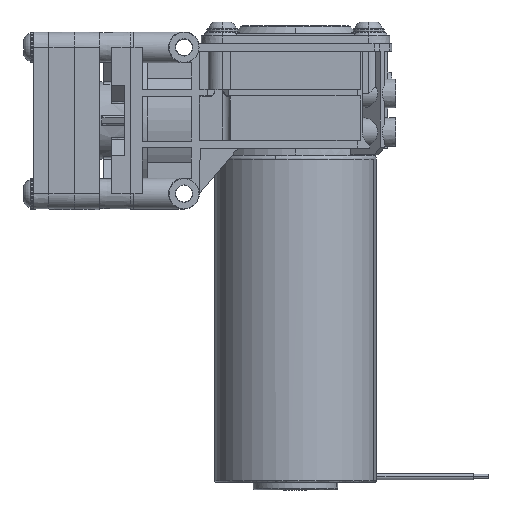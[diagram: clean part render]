
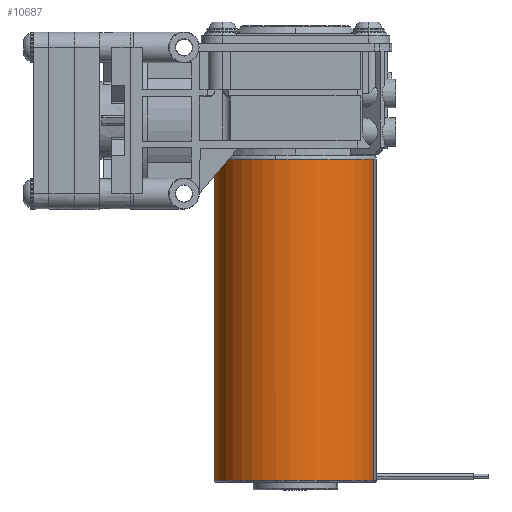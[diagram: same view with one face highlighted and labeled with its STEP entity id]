
A CAD part, left-side view. The second image highlights one B-rep face of the part: STEP entity #10687.
In plain terms, the highlighted cylindrical face has radius 21 mm (diameter 42 mm), a partial arc.
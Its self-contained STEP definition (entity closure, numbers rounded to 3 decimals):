
#1296 = CIRCLE ( 'NONE', #25575, 21. ) ;
#3294 = VECTOR ( 'NONE', #30562, 1000. ) ;
#3414 = VERTEX_POINT ( 'NONE', #49061 ) ;
#4370 = DIRECTION ( 'NONE',  ( 0., 0., 1. ) ) ;
#7441 = EDGE_CURVE ( 'NONE', #3414, #13112, #42495, .T. ) ;
#7555 = VERTEX_POINT ( 'NONE', #29185 ) ;
#8067 = CARTESIAN_POINT ( 'NONE',  ( 0., 0., -100.45 ) ) ;
#8447 = CIRCLE ( 'NONE', #44355, 21. ) ;
#8992 = ORIENTED_EDGE ( 'NONE', *, *, #12736, .T. ) ;
#9029 = DIRECTION ( 'NONE',  ( 0., 0., -1. ) ) ;
#10482 = FACE_OUTER_BOUND ( 'NONE', #46546, .T. ) ;
#10687 = ADVANCED_FACE ( 'NONE', ( #10482 ), #24586, .T. ) ;
#11309 = VERTEX_POINT ( 'NONE', #30871 ) ;
#12158 = CARTESIAN_POINT ( 'NONE',  ( 0., 0., -93.5 ) ) ;
#12736 = EDGE_CURVE ( 'NONE', #13112, #40922, #23140, .T. ) ;
#13112 = VERTEX_POINT ( 'NONE', #46379 ) ;
#13432 = EDGE_CURVE ( 'NONE', #7555, #33764, #8447, .T. ) ;
#15370 = ORIENTED_EDGE ( 'NONE', *, *, #24993, .T. ) ;
#16670 = CARTESIAN_POINT ( 'NONE',  ( 0., 0., -10. ) ) ;
#17448 = EDGE_CURVE ( 'NONE', #40922, #7555, #41627, .T. ) ;
#18714 = DIRECTION ( 'NONE',  ( 0.259, 0.966, 0. ) ) ;
#19213 = CARTESIAN_POINT ( 'NONE',  ( 0., 0., -10. ) ) ;
#19666 = DIRECTION ( 'NONE',  ( 0.259, 0.966, 0. ) ) ;
#19927 = ORIENTED_EDGE ( 'NONE', *, *, #26299, .F. ) ;
#22661 = DIRECTION ( 'NONE',  ( 0., 0., 1. ) ) ;
#23140 = CIRCLE ( 'NONE', #28371, 21. ) ;
#24586 = CYLINDRICAL_SURFACE ( 'NONE', #31576, 21. ) ;
#24696 = DIRECTION ( 'NONE',  ( 0.259, 0.966, 0. ) ) ;
#24880 = DIRECTION ( 'NONE',  ( 0.259, 0.966, 0. ) ) ;
#24993 = EDGE_CURVE ( 'NONE', #33764, #11309, #1296, .T. ) ;
#25575 = AXIS2_PLACEMENT_3D ( 'NONE', #16670, #9029, #24880 ) ;
#26299 = EDGE_CURVE ( 'NONE', #3414, #11309, #36580, .T. ) ;
#28371 = AXIS2_PLACEMENT_3D ( 'NONE', #12158, #39742, #31628 ) ;
#29185 = CARTESIAN_POINT ( 'NONE',  ( -5.435, -20.284, -10. ) ) ;
#30220 = CARTESIAN_POINT ( 'NONE',  ( -5.435, -20.284, -100.45 ) ) ;
#30562 = DIRECTION ( 'NONE',  ( 0., 0., 1. ) ) ;
#30871 = CARTESIAN_POINT ( 'NONE',  ( 5.435, 20.284, -10. ) ) ;
#31013 = ORIENTED_EDGE ( 'NONE', *, *, #13432, .T. ) ;
#31576 = AXIS2_PLACEMENT_3D ( 'NONE', #8067, #4370, #19666 ) ;
#31628 = DIRECTION ( 'NONE',  ( 0.259, 0.966, 0. ) ) ;
#31681 = VECTOR ( 'NONE', #22661, 1000. ) ;
#32265 = CARTESIAN_POINT ( 'NONE',  ( 0., 0., -93.5 ) ) ;
#33764 = VERTEX_POINT ( 'NONE', #39664 ) ;
#36580 = LINE ( 'NONE', #38183, #31681 ) ;
#38183 = CARTESIAN_POINT ( 'NONE',  ( 5.435, 20.284, -100.45 ) ) ;
#38255 = ORIENTED_EDGE ( 'NONE', *, *, #17448, .T. ) ;
#39536 = ORIENTED_EDGE ( 'NONE', *, *, #7441, .T. ) ;
#39664 = CARTESIAN_POINT ( 'NONE',  ( -20.331, 5.26, -10. ) ) ;
#39742 = DIRECTION ( 'NONE',  ( 0., 0., 1. ) ) ;
#40922 = VERTEX_POINT ( 'NONE', #45478 ) ;
#41627 = LINE ( 'NONE', #30220, #3294 ) ;
#42468 = AXIS2_PLACEMENT_3D ( 'NONE', #32265, #43425, #24696 ) ;
#42495 = CIRCLE ( 'NONE', #42468, 21. ) ;
#43425 = DIRECTION ( 'NONE',  ( 0., 0., 1. ) ) ;
#44355 = AXIS2_PLACEMENT_3D ( 'NONE', #19213, #50041, #18714 ) ;
#45478 = CARTESIAN_POINT ( 'NONE',  ( -5.435, -20.284, -93.5 ) ) ;
#46379 = CARTESIAN_POINT ( 'NONE',  ( -20.352, 5.177, -93.5 ) ) ;
#46546 = EDGE_LOOP ( 'NONE', ( #39536, #8992, #38255, #31013, #15370, #19927 ) ) ;
#49061 = CARTESIAN_POINT ( 'NONE',  ( 5.435, 20.284, -93.5 ) ) ;
#50041 = DIRECTION ( 'NONE',  ( 0., 0., -1. ) ) ;
